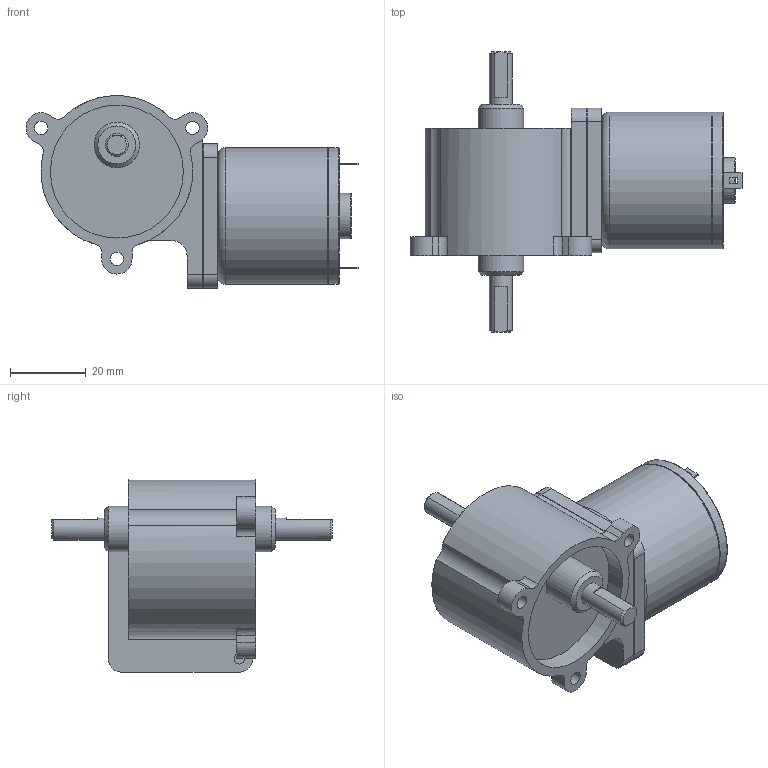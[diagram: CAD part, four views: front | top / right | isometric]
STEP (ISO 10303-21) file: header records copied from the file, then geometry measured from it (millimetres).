
FILE_DESCRIPTION((''),'2;1');
FILE_NAME('C:\Documents and Settings\SSEGAWA\デスクトップ\TP-3632A-KWR.STP','2013-07-11T15:53:17',('SSEGAWA'),(''),'Autodesk Inventor 2010','Autodesk Inventor 2010','');
FILE_SCHEMA(('CONFIG_CONTROL_DESIGN'));
Length unit declared in the file: millimetre
Products named in the file (1): tp_3632ac_kwr_Shrinkwrap_1
Bounding box: 87.42 x 73.9 x 50.63 mm (x, y, z)
Volume: 85317.7 mm3; surface area: 16208.4 mm2
Topology: 1 solids, 4 shells, 140 faces, 334 edges, 222 vertices
Faces by surface type: plane 72, cylinder 42, bspline 19, cone 4, torus 3
Full cylindrical faces by diameter (mm): 2.5 x1, 4 x1, 4.5 x1, 6 x2, 9.3 x1, 10 x1, 12 x3, 35 x1, 35.6 x1, 36 x2
Entity records: 4161 total; most frequent: CARTESIAN_POINT 864, DIRECTION 651, ORIENTED_EDGE 586, EDGE_CURVE 293, AXIS2_PLACEMENT_3D 240, VERTEX_POINT 211, EDGE_LOOP 202, VECTOR 171
